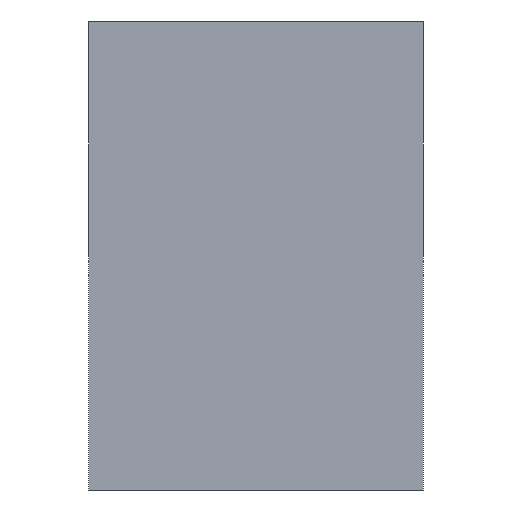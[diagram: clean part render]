
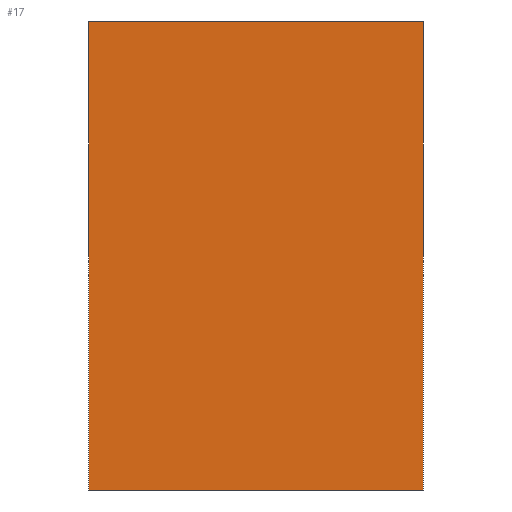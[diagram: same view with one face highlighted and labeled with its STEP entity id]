
A CAD part, front view. The second image highlights one B-rep face of the part: STEP entity #17.
In plain terms, the highlighted planar face has unit normal (0, -1, 0).
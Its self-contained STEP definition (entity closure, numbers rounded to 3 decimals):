
#17 = ADVANCED_FACE('',(#18),#32,.F.);
#18 = FACE_BOUND('',#19,.F.);
#19 = EDGE_LOOP('',(#20,#55,#83,#111));
#20 = ORIENTED_EDGE('',*,*,#21,.T.);
#21 = EDGE_CURVE('',#22,#24,#26,.T.);
#22 = VERTEX_POINT('',#23);
#23 = CARTESIAN_POINT('',(-37.5,-75.,0.));
#24 = VERTEX_POINT('',#25);
#25 = CARTESIAN_POINT('',(-37.5,-75.,105.));
#26 = SURFACE_CURVE('',#27,(#31,#43),.PCURVE_S1.);
#27 = LINE('',#28,#29);
#28 = CARTESIAN_POINT('',(-37.5,-75.,0.));
#29 = VECTOR('',#30,1.);
#30 = DIRECTION('',(0.,0.,1.));
#31 = PCURVE('',#32,#37);
#32 = PLANE('',#33);
#33 = AXIS2_PLACEMENT_3D('',#34,#35,#36);
#34 = CARTESIAN_POINT('',(-37.5,-75.,0.));
#35 = DIRECTION('',(0.,1.,0.));
#36 = DIRECTION('',(1.,0.,0.));
#37 = DEFINITIONAL_REPRESENTATION('',(#38),#42);
#38 = LINE('',#39,#40);
#39 = CARTESIAN_POINT('',(0.,0.));
#40 = VECTOR('',#41,1.);
#41 = DIRECTION('',(0.,-1.));
#42 = ( GEOMETRIC_REPRESENTATION_CONTEXT(2) 
PARAMETRIC_REPRESENTATION_CONTEXT() REPRESENTATION_CONTEXT('2D SPACE',''
  ) );
#43 = PCURVE('',#44,#49);
#44 = PLANE('',#45);
#45 = AXIS2_PLACEMENT_3D('',#46,#47,#48);
#46 = CARTESIAN_POINT('',(-37.5,75.,0.));
#47 = DIRECTION('',(1.,0.,-0.));
#48 = DIRECTION('',(0.,-1.,0.));
#49 = DEFINITIONAL_REPRESENTATION('',(#50),#54);
#50 = LINE('',#51,#52);
#51 = CARTESIAN_POINT('',(150.,0.));
#52 = VECTOR('',#53,1.);
#53 = DIRECTION('',(0.,-1.));
#54 = ( GEOMETRIC_REPRESENTATION_CONTEXT(2) 
PARAMETRIC_REPRESENTATION_CONTEXT() REPRESENTATION_CONTEXT('2D SPACE',''
  ) );
#55 = ORIENTED_EDGE('',*,*,#56,.T.);
#56 = EDGE_CURVE('',#24,#57,#59,.T.);
#57 = VERTEX_POINT('',#58);
#58 = CARTESIAN_POINT('',(37.5,-75.,105.));
#59 = SURFACE_CURVE('',#60,(#64,#71),.PCURVE_S1.);
#60 = LINE('',#61,#62);
#61 = CARTESIAN_POINT('',(-37.5,-75.,105.));
#62 = VECTOR('',#63,1.);
#63 = DIRECTION('',(1.,0.,0.));
#64 = PCURVE('',#32,#65);
#65 = DEFINITIONAL_REPRESENTATION('',(#66),#70);
#66 = LINE('',#67,#68);
#67 = CARTESIAN_POINT('',(0.,-105.));
#68 = VECTOR('',#69,1.);
#69 = DIRECTION('',(1.,0.));
#70 = ( GEOMETRIC_REPRESENTATION_CONTEXT(2) 
PARAMETRIC_REPRESENTATION_CONTEXT() REPRESENTATION_CONTEXT('2D SPACE',''
  ) );
#71 = PCURVE('',#72,#77);
#72 = PLANE('',#73);
#73 = AXIS2_PLACEMENT_3D('',#74,#75,#76);
#74 = CARTESIAN_POINT('',(0.,0.,105.));
#75 = DIRECTION('',(0.,0.,1.));
#76 = DIRECTION('',(1.,0.,-0.));
#77 = DEFINITIONAL_REPRESENTATION('',(#78),#82);
#78 = LINE('',#79,#80);
#79 = CARTESIAN_POINT('',(-37.5,-75.));
#80 = VECTOR('',#81,1.);
#81 = DIRECTION('',(1.,0.));
#82 = ( GEOMETRIC_REPRESENTATION_CONTEXT(2) 
PARAMETRIC_REPRESENTATION_CONTEXT() REPRESENTATION_CONTEXT('2D SPACE',''
  ) );
#83 = ORIENTED_EDGE('',*,*,#84,.F.);
#84 = EDGE_CURVE('',#85,#57,#87,.T.);
#85 = VERTEX_POINT('',#86);
#86 = CARTESIAN_POINT('',(37.5,-75.,0.));
#87 = SURFACE_CURVE('',#88,(#92,#99),.PCURVE_S1.);
#88 = LINE('',#89,#90);
#89 = CARTESIAN_POINT('',(37.5,-75.,0.));
#90 = VECTOR('',#91,1.);
#91 = DIRECTION('',(0.,0.,1.));
#92 = PCURVE('',#32,#93);
#93 = DEFINITIONAL_REPRESENTATION('',(#94),#98);
#94 = LINE('',#95,#96);
#95 = CARTESIAN_POINT('',(75.,0.));
#96 = VECTOR('',#97,1.);
#97 = DIRECTION('',(0.,-1.));
#98 = ( GEOMETRIC_REPRESENTATION_CONTEXT(2) 
PARAMETRIC_REPRESENTATION_CONTEXT() REPRESENTATION_CONTEXT('2D SPACE',''
  ) );
#99 = PCURVE('',#100,#105);
#100 = PLANE('',#101);
#101 = AXIS2_PLACEMENT_3D('',#102,#103,#104);
#102 = CARTESIAN_POINT('',(37.5,-75.,0.));
#103 = DIRECTION('',(-1.,0.,0.));
#104 = DIRECTION('',(0.,1.,0.));
#105 = DEFINITIONAL_REPRESENTATION('',(#106),#110);
#106 = LINE('',#107,#108);
#107 = CARTESIAN_POINT('',(0.,0.));
#108 = VECTOR('',#109,1.);
#109 = DIRECTION('',(0.,-1.));
#110 = ( GEOMETRIC_REPRESENTATION_CONTEXT(2) 
PARAMETRIC_REPRESENTATION_CONTEXT() REPRESENTATION_CONTEXT('2D SPACE',''
  ) );
#111 = ORIENTED_EDGE('',*,*,#112,.F.);
#112 = EDGE_CURVE('',#22,#85,#113,.T.);
#113 = SURFACE_CURVE('',#114,(#118,#125),.PCURVE_S1.);
#114 = LINE('',#115,#116);
#115 = CARTESIAN_POINT('',(-37.5,-75.,0.));
#116 = VECTOR('',#117,1.);
#117 = DIRECTION('',(1.,0.,0.));
#118 = PCURVE('',#32,#119);
#119 = DEFINITIONAL_REPRESENTATION('',(#120),#124);
#120 = LINE('',#121,#122);
#121 = CARTESIAN_POINT('',(0.,0.));
#122 = VECTOR('',#123,1.);
#123 = DIRECTION('',(1.,0.));
#124 = ( GEOMETRIC_REPRESENTATION_CONTEXT(2) 
PARAMETRIC_REPRESENTATION_CONTEXT() REPRESENTATION_CONTEXT('2D SPACE',''
  ) );
#125 = PCURVE('',#126,#131);
#126 = PLANE('',#127);
#127 = AXIS2_PLACEMENT_3D('',#128,#129,#130);
#128 = CARTESIAN_POINT('',(0.,0.,0.));
#129 = DIRECTION('',(0.,0.,1.));
#130 = DIRECTION('',(1.,0.,-0.));
#131 = DEFINITIONAL_REPRESENTATION('',(#132),#136);
#132 = LINE('',#133,#134);
#133 = CARTESIAN_POINT('',(-37.5,-75.));
#134 = VECTOR('',#135,1.);
#135 = DIRECTION('',(1.,0.));
#136 = ( GEOMETRIC_REPRESENTATION_CONTEXT(2) 
PARAMETRIC_REPRESENTATION_CONTEXT() REPRESENTATION_CONTEXT('2D SPACE',''
  ) );
